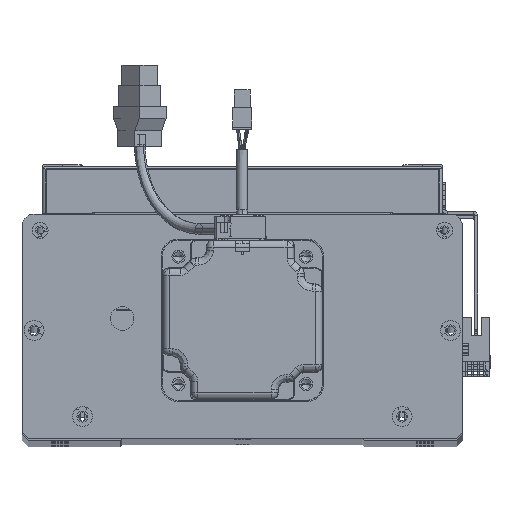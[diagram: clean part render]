
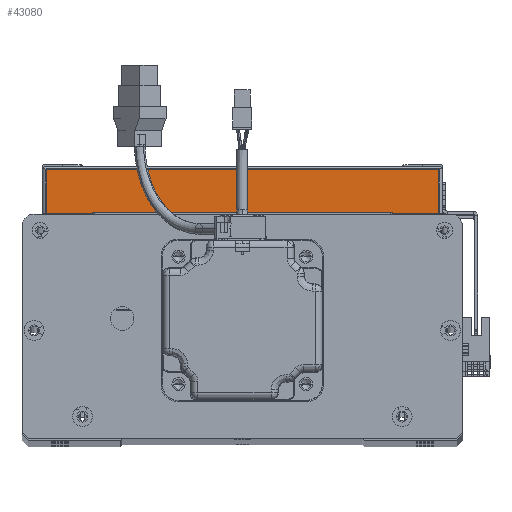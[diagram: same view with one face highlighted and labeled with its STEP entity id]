
A CAD part, top view. The second image highlights one B-rep face of the part: STEP entity #43080.
In plain terms, the highlighted planar face has unit normal (0, 0, 1) as drawn and (1, 0, 0) by its records, which use the part's own axes.
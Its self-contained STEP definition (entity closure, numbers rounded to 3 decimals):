
#3937 = CARTESIAN_POINT ( 'NONE',  ( 150., 0., -98. ) ) ;
#4063 = FACE_OUTER_BOUND ( 'NONE', #31752, .T. ) ;
#4266 = VERTEX_POINT ( 'NONE', #27599 ) ;
#4850 = VERTEX_POINT ( 'NONE', #3937 ) ;
#7747 = DIRECTION ( 'NONE',  ( 0., 0., 1. ) ) ;
#7957 = CARTESIAN_POINT ( 'NONE',  ( 150., 23.5, 98. ) ) ;
#8364 = VECTOR ( 'NONE', #19494, 1000. ) ;
#11678 = CARTESIAN_POINT ( 'NONE',  ( 150., 22.5, 98. ) ) ;
#11845 = CARTESIAN_POINT ( 'NONE',  ( 150., 0., 98. ) ) ;
#15489 = AXIS2_PLACEMENT_3D ( 'NONE', #26607, #64459, #49262 ) ;
#17397 = LINE ( 'NONE', #40397, #62266 ) ;
#17589 = ORIENTED_EDGE ( 'NONE', *, *, #41998, .T. ) ;
#17905 = EDGE_CURVE ( 'NONE', #4266, #22736, #17397, .T. ) ;
#18335 = LINE ( 'NONE', #58737, #56213 ) ;
#19403 = LINE ( 'NONE', #7957, #41435 ) ;
#19494 = DIRECTION ( 'NONE',  ( 0., 0., -1. ) ) ;
#20394 = EDGE_CURVE ( 'NONE', #4850, #4266, #18335, .T. ) ;
#21569 = DIRECTION ( 'NONE',  ( 0., -1., 0. ) ) ;
#22736 = VERTEX_POINT ( 'NONE', #11678 ) ;
#26607 = CARTESIAN_POINT ( 'NONE',  ( 150., 23.5, -100. ) ) ;
#26827 = PLANE ( 'NONE',  #15489 ) ;
#27599 = CARTESIAN_POINT ( 'NONE',  ( 150., 22.5, -98. ) ) ;
#31752 = EDGE_LOOP ( 'NONE', ( #60518, #68505, #47421, #17589 ) ) ;
#40397 = CARTESIAN_POINT ( 'NONE',  ( 150., 22.5, 98. ) ) ;
#41435 = VECTOR ( 'NONE', #21569, 1000. ) ;
#41677 = EDGE_CURVE ( 'NONE', #22736, #58809, #19403, .T. ) ;
#41998 = EDGE_CURVE ( 'NONE', #58809, #4850, #61623, .T. ) ;
#43080 = ADVANCED_FACE ( 'NONE', ( #4063 ), #26827, .F. ) ;
#47105 = DIRECTION ( 'NONE',  ( 0., 1., 0. ) ) ;
#47421 = ORIENTED_EDGE ( 'NONE', *, *, #41677, .T. ) ;
#49262 = DIRECTION ( 'NONE',  ( 0., 0., 1. ) ) ;
#51392 = CARTESIAN_POINT ( 'NONE',  ( 150., 0., -100. ) ) ;
#56213 = VECTOR ( 'NONE', #47105, 1000. ) ;
#58737 = CARTESIAN_POINT ( 'NONE',  ( 150., 23.5, -98. ) ) ;
#58809 = VERTEX_POINT ( 'NONE', #11845 ) ;
#60518 = ORIENTED_EDGE ( 'NONE', *, *, #20394, .T. ) ;
#61623 = LINE ( 'NONE', #51392, #8364 ) ;
#62266 = VECTOR ( 'NONE', #7747, 1000. ) ;
#64459 = DIRECTION ( 'NONE',  ( -1., 0., 0. ) ) ;
#68505 = ORIENTED_EDGE ( 'NONE', *, *, #17905, .T. ) ;
